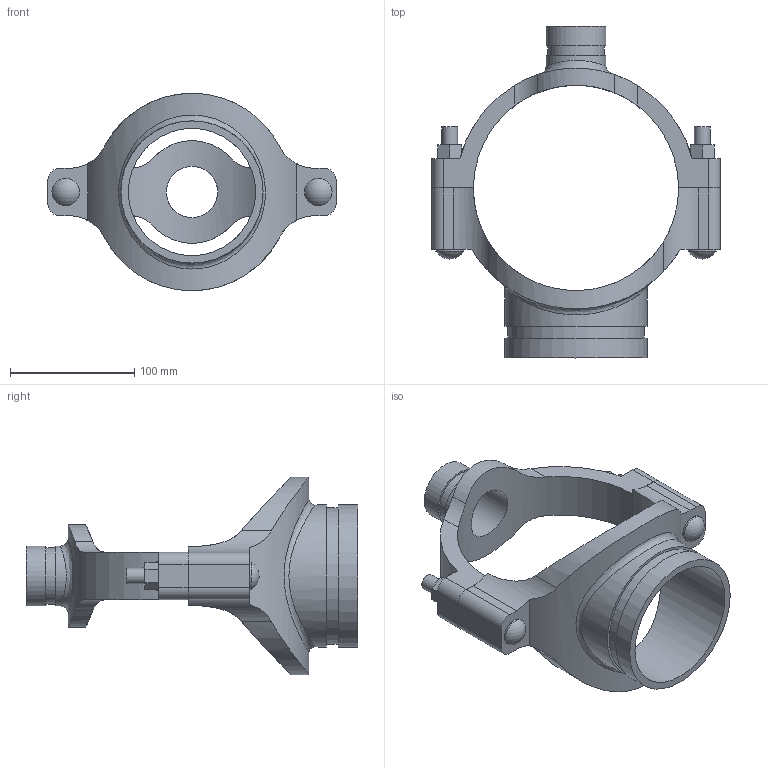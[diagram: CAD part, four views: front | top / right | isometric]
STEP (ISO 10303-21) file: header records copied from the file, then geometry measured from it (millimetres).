
FILE_DESCRIPTION(/* description */ ('VIC MECH-T BRANCH OUTLET CROSS STYLE 920N (GRVD)','CAx-IF Rec.Pracs.---Representation and Presentation of Product Manufacturing Information (PMI)---4.0---2014-10-13'),/* implementation_level */ '2;1');
FILE_NAME(/* name */ 'C:\Users\Vjadhav\AppData\Roaming\Autodesk\ApplicationPlugins\Back Up\Victaulic_IPS_Mechanical-Cross Outlet_Style 920N (OGS)\Victaulic_IPS_Mechanical-Cross Outlet_06.0 (165.1)x01.5x04.0 (150x40x100).stp',/* time_stamp */ '2020-08-06T19:45:17+05:00',/* author */ ('Vjadhav'),/* organization */ ('Victaulic'),/* preprocessor_version */ 'ST-DEVELOPER v17.2',/* originating_system */ 'Autodesk Inventor 2019',/* authorisation */ '');
FILE_SCHEMA (('AP242_MANAGED_MODEL_BASED_3D_ENGINEERING_MIM_LF { 1 0 10303 442 1 1 4 }'));
Length unit declared in the file: inch
Products named in the file (3): 920NG-06.0 (165.1)x01.5x04.0; 920NG-06.0 (165.1)x01.5x02.5; 920G-06.0 (165.1)x04.0
Assembly tree (2 placements, depth 2):
  920NG-06.0 (165.1)x01.5x04.0
    920NG-06.0 (165.1)x01.5x02.5
    920G-06.0 (165.1)x04.0
Bounding box: 231.9 x 266.95 x 158.65 mm (x, y, z)
Volume: 646276.9 mm3; surface area: 161101.5 mm2
Topology: 2 solids, 2 shells, 106 faces, 268 edges, 182 vertices
Faces by surface type: plane 54, cylinder 48, sphere 2, bspline 2
Full cylindrical faces by diameter (mm): 12.7 x4, 22.225 x2, 41.275 x1, 45.085 x1, 48.26 x2, 102.394 x1, 110.084 x1, 114.3 x2
Entity records: 4314 total; most frequent: CARTESIAN_POINT 1487, DIRECTION 542, ORIENTED_EDGE 536, EDGE_CURVE 268, AXIS2_PLACEMENT_3D 197, VERTEX_POINT 182, LINE 148, VECTOR 148
